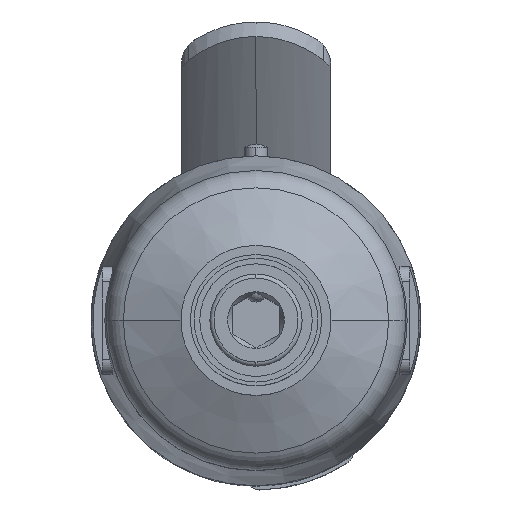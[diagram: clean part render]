
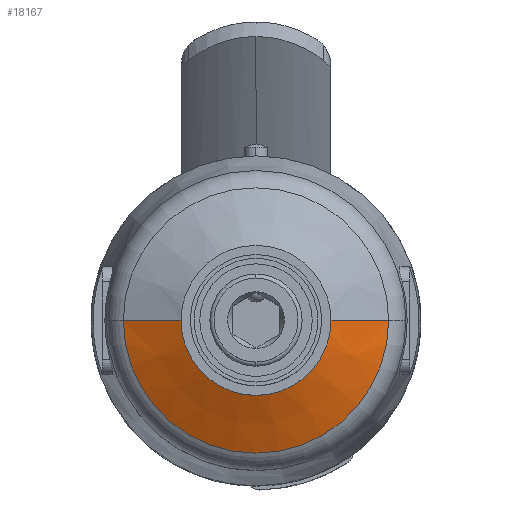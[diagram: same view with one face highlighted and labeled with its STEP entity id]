
A CAD part, top view. The second image highlights one B-rep face of the part: STEP entity #18167.
In plain terms, the highlighted conical face has half-angle 65 degrees and reference radius 20 mm.
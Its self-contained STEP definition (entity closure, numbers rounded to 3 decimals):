
#10682 = CARTESIAN_POINT ( 'NONE',  ( -17.69, 0., -5.586 ) ) ;
#10683 = CARTESIAN_POINT ( 'NONE',  ( 17.69, 0., -5.586 ) ) ;
#10747 = DIRECTION ( 'NONE',  ( -0.906, 0., -0.423 ) ) ;
#10748 = VECTOR ( 'NONE', #10747, 1000. ) ;
#10749 = CARTESIAN_POINT ( 'NONE',  ( -20., 0., -6.663 ) ) ;
#10750 = LINE ( 'NONE', #10749, #10748 ) ;
#10751 = DIRECTION ( 'NONE',  ( 0.906, 0., -0.423 ) ) ;
#10752 = VECTOR ( 'NONE', #10751, 1000. ) ;
#10753 = CARTESIAN_POINT ( 'NONE',  ( 20., 0., -6.663 ) ) ;
#10754 = LINE ( 'NONE', #10753, #10752 ) ;
#10755 = CARTESIAN_POINT ( 'NONE',  ( -10., 0., -2. ) ) ;
#10756 = CARTESIAN_POINT ( 'NONE',  ( 10., 0., -2. ) ) ;
#10980 = CONICAL_SURFACE ( 'NONE', #11046, 20., 1.134 ) ;
#10981 = FACE_OUTER_BOUND ( 'NONE', #18168, .T. ) ;
#10982 = DIRECTION ( 'NONE',  ( 1., 0., 0. ) ) ;
#10983 = DIRECTION ( 'NONE',  ( 0., 0., 1. ) ) ;
#10984 = CARTESIAN_POINT ( 'NONE',  ( 0., 0., -2. ) ) ;
#10985 = AXIS2_PLACEMENT_3D ( 'NONE', #10984, #10983, #10982 ) ;
#10986 = CIRCLE ( 'NONE', #10985, 10. ) ;
#11038 = DIRECTION ( 'NONE',  ( 1., 0., 0. ) ) ;
#11039 = DIRECTION ( 'NONE',  ( 0., 0., 1. ) ) ;
#11040 = CARTESIAN_POINT ( 'NONE',  ( 0., 0., -5.586 ) ) ;
#11041 = AXIS2_PLACEMENT_3D ( 'NONE', #11040, #11039, #11038 ) ;
#11042 = CIRCLE ( 'NONE', #11041, 17.69 ) ;
#11043 = DIRECTION ( 'NONE',  ( -1., 0., 0. ) ) ;
#11044 = DIRECTION ( 'NONE',  ( 0., 0., -1. ) ) ;
#11045 = CARTESIAN_POINT ( 'NONE',  ( 0., 0., -6.663 ) ) ;
#11046 = AXIS2_PLACEMENT_3D ( 'NONE', #11045, #11044, #11043 ) ;
#18005 = VERTEX_POINT ( 'NONE', #10683 ) ;
#18006 = VERTEX_POINT ( 'NONE', #10682 ) ;
#18037 = VERTEX_POINT ( 'NONE', #10756 ) ;
#18038 = VERTEX_POINT ( 'NONE', #10755 ) ;
#18040 = EDGE_CURVE ( 'NONE', #18037, #18005, #10754, .T. ) ;
#18043 = EDGE_CURVE ( 'NONE', #18038, #18006, #10750, .T. ) ;
#18164 = EDGE_CURVE ( 'NONE', #18038, #18037, #10986, .T. ) ;
#18167 = ADVANCED_FACE ( 'NONE', ( #10981 ), #10980, .T. ) ;
#18168 = EDGE_LOOP ( 'NONE', ( #18169, #18170, #18171, #18172 ) ) ;
#18169 = ORIENTED_EDGE ( 'NONE', *, *, #18040, .F. ) ;
#18170 = ORIENTED_EDGE ( 'NONE', *, *, #18164, .F. ) ;
#18171 = ORIENTED_EDGE ( 'NONE', *, *, #18043, .T. ) ;
#18172 = ORIENTED_EDGE ( 'NONE', *, *, #18173, .T. ) ;
#18173 = EDGE_CURVE ( 'NONE', #18006, #18005, #11042, .T. ) ;
